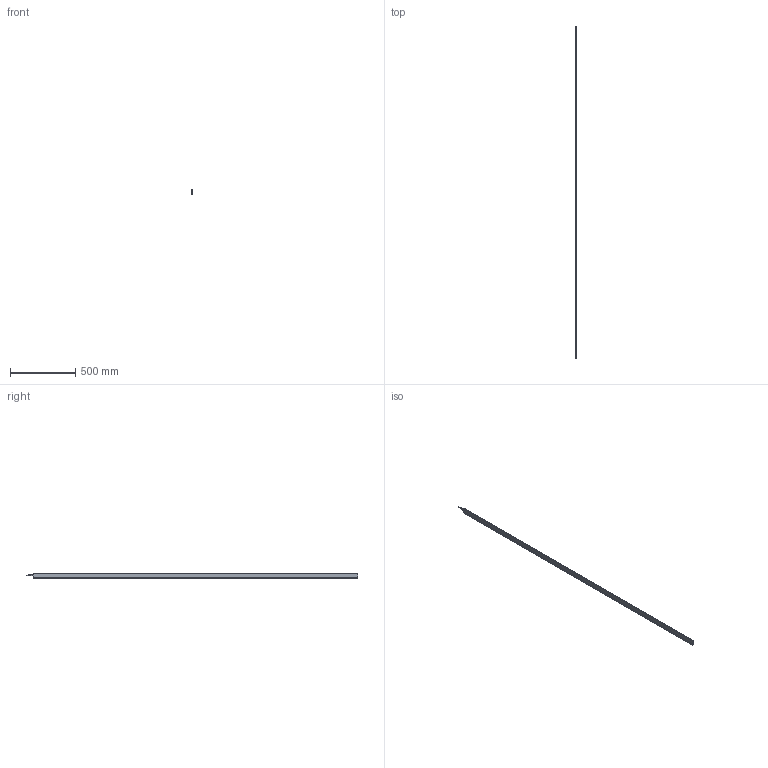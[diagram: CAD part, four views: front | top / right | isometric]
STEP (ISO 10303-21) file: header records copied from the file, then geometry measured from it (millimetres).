
FILE_DESCRIPTION (( 'STEP AP214' ), '1' );
FILE_NAME ('ILG-L-K2-2490mm.STEP', '2017-07-11T08:32:09', ( '' ), ( '' ), 'SwSTEP 2.0', 'SolidWorks 2016', '' );
FILE_SCHEMA (( 'AUTOMOTIVE_DESIGN' ));
Length unit declared in the file: millimetre
Products named in the file (1): ILG-L-K2-2490mm
Bounding box: 9 x 2544.5 x 40.71 mm (x, y, z)
Surface area: 490587.1 mm2 (no closed solid volume)
Topology: 0 solids, 13 shells, 681 faces, 1786 edges, 1135 vertices
Faces by surface type: cylinder 288, plane 255, cone 90, bspline 32, torus 16
Entity records: 30628 total; most frequent: CARTESIAN_POINT 6489, ORIENTED_EDGE 3525, DIRECTION 3406, EDGE_CURVE 1770, AXIS2_PLACEMENT_3D 1301, VERTEX_POINT 1135, LINE 804, VECTOR 804
